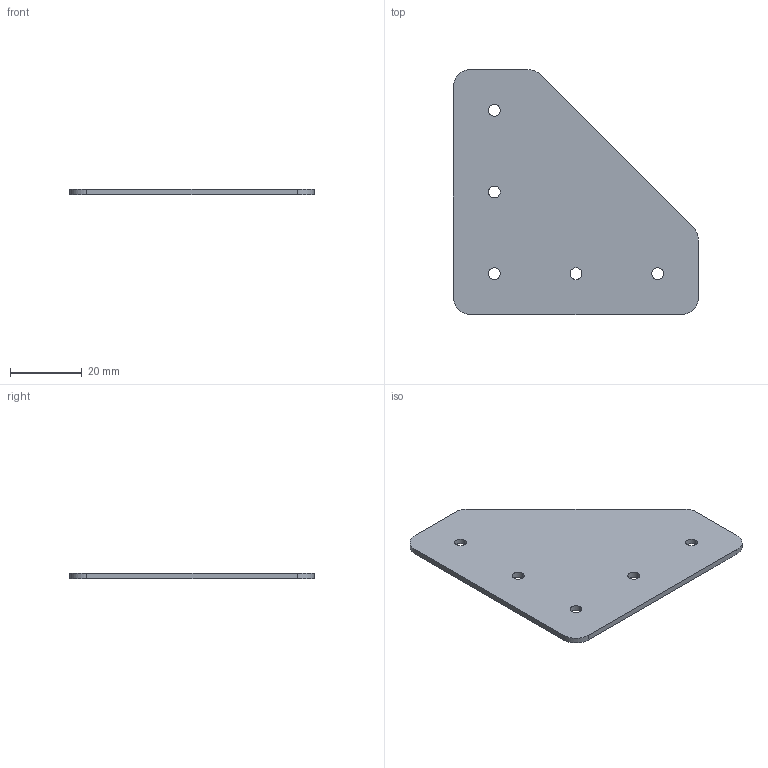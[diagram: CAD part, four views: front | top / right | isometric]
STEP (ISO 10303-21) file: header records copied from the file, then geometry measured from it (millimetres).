
FILE_DESCRIPTION (( 'STEP AP214' ), '1' );
FILE_NAME ('DRP-002-0003-03.step', '2010-06-23T19:06:51', ( '' ), ( '' ), 'SwSTEP 2.0', 'SolidWorks 2010', '' );
FILE_SCHEMA (( 'AUTOMOTIVE_DESIGN' ));
Length unit declared in the file: inch
Products named in the file (1): DRP-002-0003-03
Bounding box: 68.2 x 68.2 x 1.59 mm (x, y, z)
Volume: 5649.3 mm3; surface area: 7579.8 mm2
Topology: 1 solids, 1 shells, 22 faces, 60 edges, 40 vertices
Faces by surface type: cylinder 15, plane 7
Entity records: 800 total; most frequent: DIRECTION 136, CARTESIAN_POINT 123, ORIENTED_EDGE 120, EDGE_CURVE 60, AXIS2_PLACEMENT_3D 53, VERTEX_POINT 40, EDGE_LOOP 32, VECTOR 30
